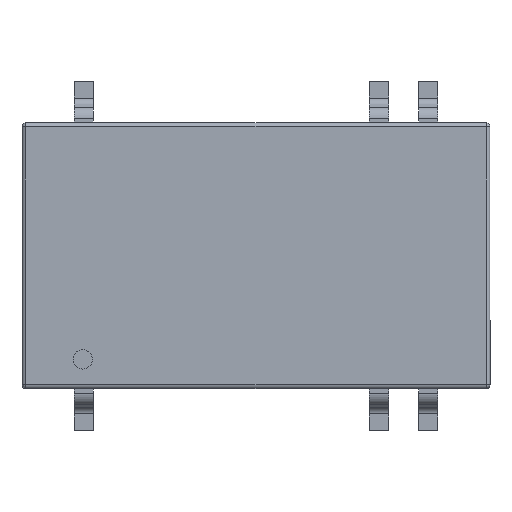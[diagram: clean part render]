
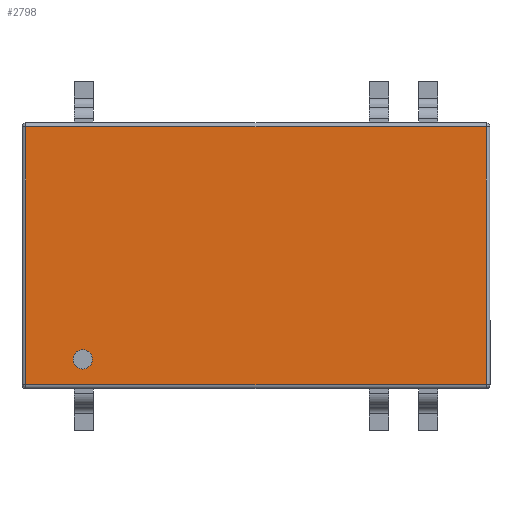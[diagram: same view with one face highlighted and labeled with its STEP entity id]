
A CAD part, top view. The second image highlights one B-rep face of the part: STEP entity #2798.
In plain terms, the highlighted planar face has unit normal (0, 0, 1) as drawn and (0, 0, -1) by its records, which use the part's own axes.
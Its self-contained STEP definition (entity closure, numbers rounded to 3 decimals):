
#304=LINE('',#4563,#608);
#306=LINE('',#4571,#610);
#308=LINE('',#4579,#612);
#310=LINE('',#4590,#614);
#608=VECTOR('',#3738,13.3);
#610=VECTOR('',#3746,23.75);
#612=VECTOR('',#3754,13.3);
#614=VECTOR('',#3770,23.75);
#737=PLANE('',#3039);
#765=FACE_BOUND('',#1084,.T.);
#910=FACE_OUTER_BOUND('',#1083,.T.);
#1083=EDGE_LOOP('',(#2557,#2558,#2559,#2560));
#1084=EDGE_LOOP('',(#2561));
#1181=CIRCLE('',#3040,0.5);
#1413=VERTEX_POINT('',#4556);
#1416=VERTEX_POINT('',#4561);
#1417=VERTEX_POINT('',#4565);
#1420=VERTEX_POINT('',#4573);
#1430=VERTEX_POINT('',#4614);
#1786=EDGE_CURVE('',#1416,#1413,#304,.T.);
#1790=EDGE_CURVE('',#1413,#1417,#306,.T.);
#1794=EDGE_CURVE('',#1417,#1420,#308,.T.);
#1800=EDGE_CURVE('',#1420,#1416,#310,.T.);
#1812=EDGE_CURVE('',#1430,#1430,#1181,.T.);
#2557=ORIENTED_EDGE('',*,*,#1786,.F.);
#2558=ORIENTED_EDGE('',*,*,#1800,.F.);
#2559=ORIENTED_EDGE('',*,*,#1794,.F.);
#2560=ORIENTED_EDGE('',*,*,#1790,.F.);
#2561=ORIENTED_EDGE('',*,*,#1812,.T.);
#2798=ADVANCED_FACE('',(#910,#765),#737,.F.);
#3039=AXIS2_PLACEMENT_3D('',#4613,#3798,#3799);
#3040=AXIS2_PLACEMENT_3D('',#4615,#3800,#3801);
#3738=DIRECTION('',(0.,-1.,0.));
#3746=DIRECTION('',(1.,0.,0.));
#3754=DIRECTION('',(0.,1.,0.));
#3770=DIRECTION('',(-1.,0.,0.));
#3798=DIRECTION('center_axis',(0.,0.,1.));
#3799=DIRECTION('ref_axis',(1.,0.,0.));
#3800=DIRECTION('center_axis',(0.,0.,1.));
#3801=DIRECTION('ref_axis',(1.,0.,0.));
#4556=CARTESIAN_POINT('',(-11.875,-6.65,0.));
#4561=CARTESIAN_POINT('',(-11.875,6.65,0.));
#4563=CARTESIAN_POINT('',(-11.875,-3.425,0.));
#4565=CARTESIAN_POINT('',(11.875,-6.65,0.));
#4571=CARTESIAN_POINT('',(6.038,-6.65,0.));
#4573=CARTESIAN_POINT('',(11.875,6.65,0.));
#4579=CARTESIAN_POINT('',(11.875,3.425,0.));
#4590=CARTESIAN_POINT('',(-6.038,6.65,0.));
#4613=CARTESIAN_POINT('Origin',(0.,0.,0.));
#4614=CARTESIAN_POINT('',(8.44,-5.35,0.));
#4615=CARTESIAN_POINT('Origin',(8.94,-5.35,0.));
